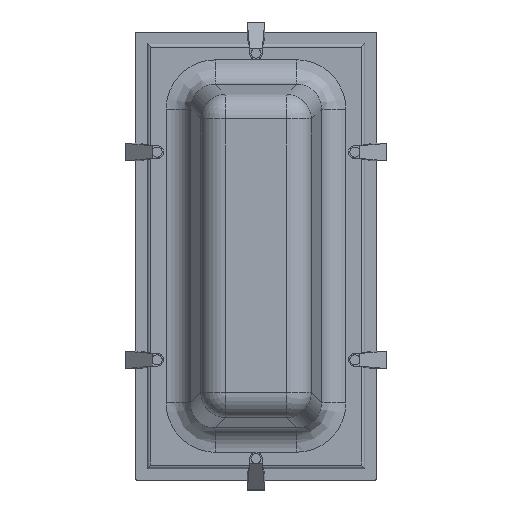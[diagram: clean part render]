
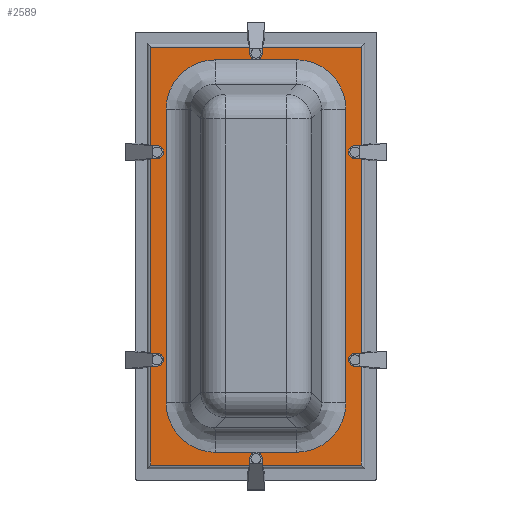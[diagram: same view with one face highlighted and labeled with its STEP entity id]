
A CAD part, top view. The second image highlights one B-rep face of the part: STEP entity #2589.
In plain terms, the highlighted planar face has unit normal (0, 0, 1).
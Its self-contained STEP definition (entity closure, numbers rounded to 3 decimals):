
#53=FACE_BOUND('',#927,.T.);
#54=FACE_BOUND('',#928,.T.);
#55=FACE_BOUND('',#929,.T.);
#56=FACE_BOUND('',#930,.T.);
#57=FACE_BOUND('',#931,.T.);
#58=FACE_BOUND('',#932,.T.);
#59=FACE_BOUND('',#933,.T.);
#66=PLANE('',#2792);
#161=LINE('',#3811,#421);
#163=LINE('',#3864,#423);
#167=LINE('',#3927,#427);
#171=LINE('',#3933,#431);
#185=LINE('',#3959,#445);
#186=LINE('',#3961,#446);
#187=LINE('',#3963,#447);
#188=LINE('',#3964,#448);
#421=VECTOR('',#3016,10.);
#423=VECTOR('',#3028,10.);
#427=VECTOR('',#3052,10.);
#431=VECTOR('',#3060,10.);
#445=VECTOR('',#3094,10.);
#446=VECTOR('',#3095,10.);
#447=VECTOR('',#3096,10.);
#448=VECTOR('',#3097,10.);
#719=ELLIPSE('',#2749,41.225,40.);
#722=ELLIPSE('',#2763,41.225,40.);
#723=ELLIPSE('',#2766,41.225,40.);
#725=ELLIPSE('',#2776,41.225,40.);
#770=FACE_OUTER_BOUND('',#926,.T.);
#926=EDGE_LOOP('',(#1776,#1777,#1778,#1779));
#927=EDGE_LOOP('',(#1780));
#928=EDGE_LOOP('',(#1781));
#929=EDGE_LOOP('',(#1782));
#930=EDGE_LOOP('',(#1783));
#931=EDGE_LOOP('',(#1784));
#932=EDGE_LOOP('',(#1785));
#933=EDGE_LOOP('',(#1786,#1787,#1788,#1789,#1790,#1791,#1792,#1793));
#1089=CIRCLE('',#2793,4.);
#1090=CIRCLE('',#2794,4.);
#1091=CIRCLE('',#2795,4.);
#1092=CIRCLE('',#2796,4.);
#1093=CIRCLE('',#2797,4.);
#1094=CIRCLE('',#2798,4.);
#1147=VERTEX_POINT('',#3738);
#1148=VERTEX_POINT('',#3739);
#1159=VERTEX_POINT('',#3805);
#1160=VERTEX_POINT('',#3807);
#1161=VERTEX_POINT('',#3855);
#1162=VERTEX_POINT('',#3856);
#1168=VERTEX_POINT('',#3918);
#1169=VERTEX_POINT('',#3919);
#1172=VERTEX_POINT('',#3957);
#1173=VERTEX_POINT('',#3958);
#1174=VERTEX_POINT('',#3960);
#1175=VERTEX_POINT('',#3962);
#1176=VERTEX_POINT('',#3965);
#1177=VERTEX_POINT('',#3967);
#1178=VERTEX_POINT('',#3969);
#1179=VERTEX_POINT('',#3971);
#1180=VERTEX_POINT('',#3973);
#1181=VERTEX_POINT('',#3975);
#1347=EDGE_CURVE('',#1147,#1148,#719,.T.);
#1359=EDGE_CURVE('',#1159,#1160,#722,.T.);
#1361=EDGE_CURVE('',#1148,#1159,#161,.T.);
#1363=EDGE_CURVE('',#1161,#1162,#723,.T.);
#1367=EDGE_CURVE('',#1162,#1147,#163,.T.);
#1374=EDGE_CURVE('',#1168,#1169,#725,.T.);
#1378=EDGE_CURVE('',#1169,#1161,#167,.T.);
#1382=EDGE_CURVE('',#1160,#1168,#171,.T.);
#1396=EDGE_CURVE('',#1172,#1173,#185,.T.);
#1397=EDGE_CURVE('',#1174,#1172,#186,.T.);
#1398=EDGE_CURVE('',#1175,#1174,#187,.T.);
#1399=EDGE_CURVE('',#1173,#1175,#188,.T.);
#1400=EDGE_CURVE('',#1176,#1176,#1089,.T.);
#1401=EDGE_CURVE('',#1177,#1177,#1090,.T.);
#1402=EDGE_CURVE('',#1178,#1178,#1091,.T.);
#1403=EDGE_CURVE('',#1179,#1179,#1092,.T.);
#1404=EDGE_CURVE('',#1180,#1180,#1093,.T.);
#1405=EDGE_CURVE('',#1181,#1181,#1094,.T.);
#1776=ORIENTED_EDGE('',*,*,#1396,.F.);
#1777=ORIENTED_EDGE('',*,*,#1397,.F.);
#1778=ORIENTED_EDGE('',*,*,#1398,.F.);
#1779=ORIENTED_EDGE('',*,*,#1399,.F.);
#1780=ORIENTED_EDGE('',*,*,#1400,.T.);
#1781=ORIENTED_EDGE('',*,*,#1401,.T.);
#1782=ORIENTED_EDGE('',*,*,#1402,.T.);
#1783=ORIENTED_EDGE('',*,*,#1403,.T.);
#1784=ORIENTED_EDGE('',*,*,#1404,.T.);
#1785=ORIENTED_EDGE('',*,*,#1405,.T.);
#1786=ORIENTED_EDGE('',*,*,#1374,.F.);
#1787=ORIENTED_EDGE('',*,*,#1382,.F.);
#1788=ORIENTED_EDGE('',*,*,#1359,.F.);
#1789=ORIENTED_EDGE('',*,*,#1361,.F.);
#1790=ORIENTED_EDGE('',*,*,#1347,.F.);
#1791=ORIENTED_EDGE('',*,*,#1367,.F.);
#1792=ORIENTED_EDGE('',*,*,#1363,.F.);
#1793=ORIENTED_EDGE('',*,*,#1378,.F.);
#2589=ADVANCED_FACE('',(#770,#53,#54,#55,#56,#57,#58,#59),#66,.T.);
#2749=AXIS2_PLACEMENT_3D('',#3740,#2982,#2983);
#2763=AXIS2_PLACEMENT_3D('',#3808,#3010,#3011);
#2766=AXIS2_PLACEMENT_3D('',#3857,#3018,#3019);
#2776=AXIS2_PLACEMENT_3D('',#3920,#3042,#3043);
#2792=AXIS2_PLACEMENT_3D('',#3956,#3092,#3093);
#2793=AXIS2_PLACEMENT_3D('',#3966,#3098,#3099);
#2794=AXIS2_PLACEMENT_3D('',#3968,#3100,#3101);
#2795=AXIS2_PLACEMENT_3D('',#3970,#3102,#3103);
#2796=AXIS2_PLACEMENT_3D('',#3972,#3104,#3105);
#2797=AXIS2_PLACEMENT_3D('',#3974,#3106,#3107);
#2798=AXIS2_PLACEMENT_3D('',#3976,#3108,#3109);
#2982=DIRECTION('center_axis',(0.,0.,1.));
#2983=DIRECTION('ref_axis',(0.707,-0.707,0.));
#3010=DIRECTION('center_axis',(0.,0.,1.));
#3011=DIRECTION('ref_axis',(0.707,0.707,0.));
#3016=DIRECTION('',(0.,1.,0.));
#3018=DIRECTION('center_axis',(0.,0.,1.));
#3019=DIRECTION('ref_axis',(-0.707,-0.707,0.));
#3028=DIRECTION('',(1.,0.,0.));
#3042=DIRECTION('center_axis',(0.,0.,1.));
#3043=DIRECTION('ref_axis',(-0.707,0.707,0.));
#3052=DIRECTION('',(0.,-1.,0.));
#3060=DIRECTION('',(-1.,0.,0.));
#3092=DIRECTION('center_axis',(0.,0.,1.));
#3093=DIRECTION('ref_axis',(1.,0.,0.));
#3094=DIRECTION('',(1.,0.,0.));
#3095=DIRECTION('',(0.,1.,0.));
#3096=DIRECTION('',(-1.,0.,0.));
#3097=DIRECTION('',(0.,-1.,0.));
#3098=DIRECTION('center_axis',(0.,0.,-1.));
#3099=DIRECTION('ref_axis',(1.,0.,0.));
#3100=DIRECTION('center_axis',(0.,0.,-1.));
#3101=DIRECTION('ref_axis',(-1.,0.,0.));
#3102=DIRECTION('center_axis',(0.,0.,-1.));
#3103=DIRECTION('ref_axis',(1.,0.,0.));
#3104=DIRECTION('center_axis',(0.,0.,-1.));
#3105=DIRECTION('ref_axis',(1.,0.,0.));
#3106=DIRECTION('center_axis',(0.,0.,-1.));
#3107=DIRECTION('ref_axis',(1.,0.,0.));
#3108=DIRECTION('center_axis',(0.,0.,-1.));
#3109=DIRECTION('ref_axis',(1.,0.,0.));
#3738=CARTESIAN_POINT('',(32.39,-156.782,22.));
#3739=CARTESIAN_POINT('',(71.782,-117.39,22.));
#3740=CARTESIAN_POINT('Origin',(31.165,-116.165,22.));
#3805=CARTESIAN_POINT('',(71.782,117.39,22.));
#3807=CARTESIAN_POINT('',(32.39,156.782,22.));
#3808=CARTESIAN_POINT('Origin',(31.165,116.165,22.));
#3811=CARTESIAN_POINT('',(71.782,70.,22.));
#3855=CARTESIAN_POINT('',(-71.782,-117.39,22.));
#3856=CARTESIAN_POINT('',(-32.39,-156.782,22.));
#3857=CARTESIAN_POINT('Origin',(-31.165,-116.165,22.));
#3864=CARTESIAN_POINT('',(27.5,-156.782,22.));
#3918=CARTESIAN_POINT('',(-32.39,156.782,22.));
#3919=CARTESIAN_POINT('',(-71.782,117.39,22.));
#3920=CARTESIAN_POINT('Origin',(-31.165,116.165,22.));
#3927=CARTESIAN_POINT('',(-71.782,-70.,22.));
#3933=CARTESIAN_POINT('',(-27.5,156.782,22.));
#3956=CARTESIAN_POINT('Origin',(0.,0.,
22.));
#3957=CARTESIAN_POINT('',(-84.,167.,22.));
#3958=CARTESIAN_POINT('',(84.,167.,22.));
#3959=CARTESIAN_POINT('',(43.5,167.,22.));
#3960=CARTESIAN_POINT('',(-84.,-167.,22.));
#3961=CARTESIAN_POINT('',(-84.,85.,22.));
#3962=CARTESIAN_POINT('',(84.,-167.,22.));
#3963=CARTESIAN_POINT('',(-43.5,-167.,22.));
#3964=CARTESIAN_POINT('',(84.,-85.,22.));
#3965=CARTESIAN_POINT('',(-4.,-162.,22.));
#3966=CARTESIAN_POINT('Origin',(0.,-162.,22.));
#3967=CARTESIAN_POINT('',(4.,162.,22.));
#3968=CARTESIAN_POINT('Origin',(0.,162.,22.));
#3969=CARTESIAN_POINT('',(-83.,83.,22.));
#3970=CARTESIAN_POINT('Origin',(-79.,83.,22.));
#3971=CARTESIAN_POINT('',(75.,-83.,22.));
#3972=CARTESIAN_POINT('Origin',(79.,-83.,22.));
#3973=CARTESIAN_POINT('',(75.,83.,22.));
#3974=CARTESIAN_POINT('Origin',(79.,83.,22.));
#3975=CARTESIAN_POINT('',(-83.,-83.,22.));
#3976=CARTESIAN_POINT('Origin',(-79.,-83.,22.));
